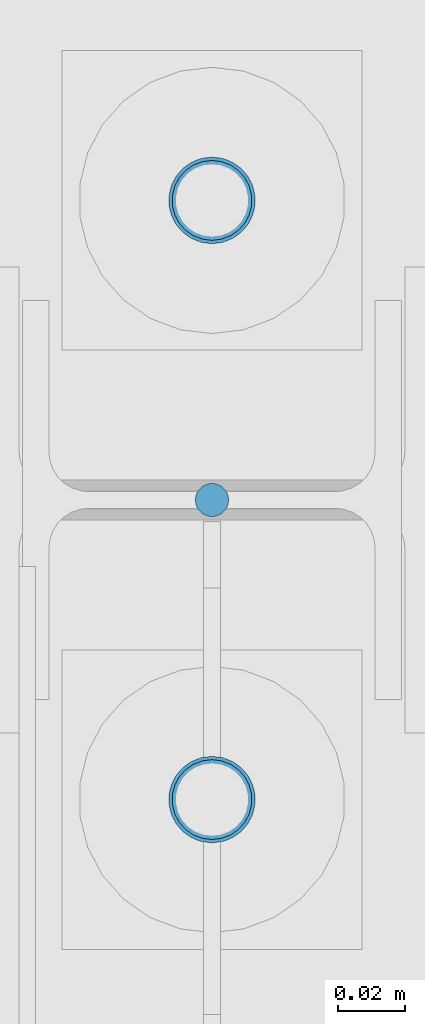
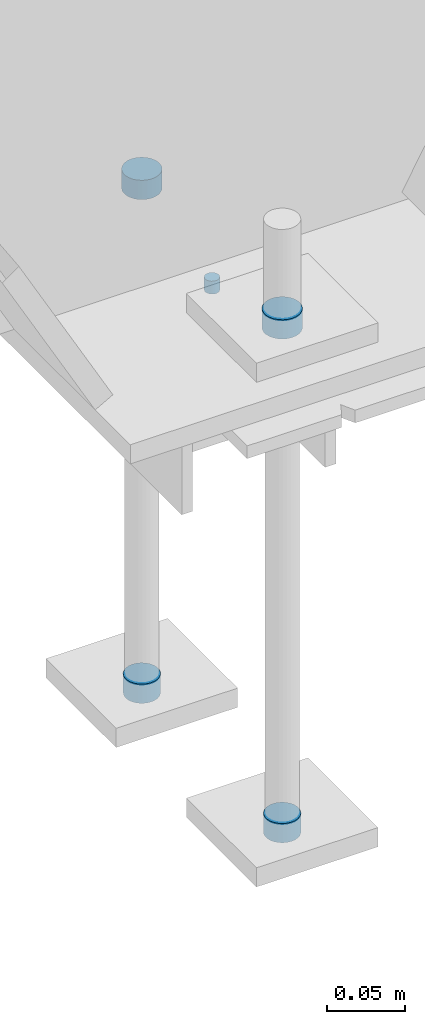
# One storey, part 100 of 123: 5 mechanical fasteners, 1 element without a shape of its own.
"""IFC2X3 building model written with IfcOpenShell, lengths in millimetres."""

import ifcopenshell
import ifcopenshell.guid

model = None  # the IFC model being written
_history = None  # IfcOwnerHistory: only IFC2X3 demands one
_inside = {}  # id of a spatial element -> (the spatial element, [elements in it])
_under = {}  # id of a project, library or spatial element -> (it, [spatial elements below it])
_declared = {}  # id of a project -> (the project, [libraries it declares])
_typed = {}  # id of a type object -> (the type object, [elements of that type])
_made_of = {}  # id of a material, layer set ... -> (it, [elements and type objects made of it])


def new_model(schema):
    """Start an empty IFC model of exactly this schema.

    Asked for "IFC4X3", IfcOpenShell would pick the latest addendum, in which some entities
    have other attributes; the version numbers below select the first issue.
    IFC2X3 requires an IfcOwnerHistory on every rooted entity: one is made here for all.
    """
    global model, _history
    if schema == "IFC4X3":
        model = ifcopenshell.file(schema_version=(4, 3, 0, 0))
    else:
        model = ifcopenshell.file(schema=schema)
    _inside.clear()
    _under.clear()
    _declared.clear()
    _typed.clear()
    _made_of.clear()
    _history = None
    if model.schema == "IFC2X3":
        org = make("IfcOrganization", Name="unknown")
        user = make(
            "IfcPersonAndOrganization",
            ThePerson=make("IfcPerson", FamilyName="unknown"),
            TheOrganization=org,
        )
        app = make(
            "IfcApplication",
            ApplicationDeveloper=org,
            Version="unknown",
            ApplicationFullName="unknown",
            ApplicationIdentifier="unknown",
        )
        _history = make(
            "IfcOwnerHistory",
            OwningUser=user,
            OwningApplication=app,
            ChangeAction="ADDED",
            CreationDate=0,
        )
    return model


def make(cls, **values):
    """One entity of the class cls with the attributes given. An attribute that is None is left unset."""
    return model.create_entity(
        cls, **{name: value for name, value in values.items() if value is not None}
    )


def rooted(cls, **values):
    """An entity with a GlobalId (a new one), such as an element, a storey or a relation."""
    return make(cls, GlobalId=ifcopenshell.guid.new(), OwnerHistory=_history, **values)


def si_unit(unit_type, name, prefix=None):
    """IfcSIUnit, for example si_unit("LENGTHUNIT", "METRE", prefix="MILLI")."""
    return make("IfcSIUnit", UnitType=unit_type, Prefix=prefix, Name=name)


def assignment(units):
    """IfcUnitAssignment: the units of a project."""
    return None if units is None else make("IfcUnitAssignment", Units=units)


def point(xyz):
    """IfcCartesianPoint."""
    return None if xyz is None else make("IfcCartesianPoint", Coordinates=xyz)


def direction(xyz):
    """IfcDirection."""
    return None if xyz is None else make("IfcDirection", DirectionRatios=xyz)


def frame(location, z_axis=None, x_axis=None):
    """IfcAxis2Placement3D, a coordinate frame: its origin and axes. An axis left out is left unset."""
    return make(
        "IfcAxis2Placement3D",
        Location=point(location),
        Axis=direction(z_axis),
        RefDirection=direction(x_axis),
    )


def frame_2d(location, x_axis=None):
    """IfcAxis2Placement2D, a coordinate frame in the plane: its origin and x axis."""
    return make(
        "IfcAxis2Placement2D", Location=point(location), RefDirection=direction(x_axis)
    )


def origin_with_axes():
    """The frame at (0, 0, 0) with the z axis (0, 0, 1) and the x axis (1, 0, 0) written out."""
    return frame((0.0, 0.0, 0.0), z_axis=(0.0, 0.0, 1.0), x_axis=(1.0, 0.0, 0.0))


def origin_2d_with_axis():
    """The frame at (0, 0) in the plane with the x axis (1, 0) written out."""
    return frame_2d((0.0, 0.0), x_axis=(1.0, 0.0))


def place(relative_to, where):
    """IfcLocalPlacement: puts the frame where relative to a parent placement (None: the world)."""
    return make(
        "IfcLocalPlacement", PlacementRelTo=relative_to, RelativePlacement=where
    )


def context(
    kind, dimensions, precision=None, world=None, true_north=None, identifier=None
):
    """IfcGeometricRepresentationContext, for example the 3D "Model" context."""
    return make(
        "IfcGeometricRepresentationContext",
        ContextIdentifier=identifier,
        ContextType=kind,
        CoordinateSpaceDimension=dimensions,
        Precision=precision,
        WorldCoordinateSystem=world,
        TrueNorth=true_north,
    )


def subcontext(parent, identifier, kind, view, scale=None):
    """IfcGeometricRepresentationSubContext, for example "Body" below "Model"."""
    return make(
        "IfcGeometricRepresentationSubContext",
        ContextIdentifier=identifier,
        ContextType=kind,
        ParentContext=parent,
        TargetScale=scale,
        TargetView=view,
    )


def project(units=None, contexts=None):
    """IfcProject with its units and contexts."""
    return rooted(
        "IfcProject",
        Name="project",
        RepresentationContexts=contexts,
        UnitsInContext=assignment(units),
    )


def spatial(cls, under=None, at=None, **own):
    """A site, building, storey or space (cls), placed at a placement, below another one or the project."""
    s = rooted(cls, ObjectPlacement=at, **own)
    if under is not None:
        _under.setdefault(under.id(), (under, []))[1].append(s)
    return s


def profile(cls, at=None, kind="AREA", **sizes):
    """A parametric profile (cls). Its sizes go by their IFC names, for example OverallWidth=200.0."""
    return make(cls, ProfileType=kind, Position=at, **sizes)


def circle(**sizes):
    """IfcCircleProfileDef."""
    return profile("IfcCircleProfileDef", **sizes)


def extrude(swept, where, along, depth):
    """IfcExtrudedAreaSolid: the profile swept, set in the frame where, extruded along a direction by depth."""
    return make(
        "IfcExtrudedAreaSolid",
        SweptArea=swept,
        Position=where,
        ExtrudedDirection=direction(along),
        Depth=depth,
    )


def shape(context_of_items, identifier, shape_type, items):
    """IfcShapeRepresentation: the items that make up one representation, for example the "Body"."""
    return make(
        "IfcShapeRepresentation",
        ContextOfItems=context_of_items,
        RepresentationIdentifier=identifier,
        RepresentationType=shape_type,
        Items=items,
    )


def source(mapping_origin, context_of_items, identifier, shape_type, items):
    """IfcRepresentationMap: a shape defined once, which mapped items show again and again."""
    return make(
        "IfcRepresentationMap",
        MappingOrigin=mapping_origin,
        MappedRepresentation=shape(context_of_items, identifier, shape_type, items),
    )


def transform(
    local_origin,
    x_axis=None,
    y_axis=None,
    z_axis=None,
    scale=None,
    scale2=None,
    scale3=None,
    uniform=True,
):
    """IfcCartesianTransformationOperator3D, or its non-uniform kind. x_axis, y_axis, z_axis: its Axis1, 2, 3."""
    if uniform:
        return make(
            "IfcCartesianTransformationOperator3D",
            Axis1=direction(x_axis),
            Axis2=direction(y_axis),
            LocalOrigin=point(local_origin),
            Scale=scale,
            Axis3=direction(z_axis),
        )
    return make(
        "IfcCartesianTransformationOperator3DnonUniform",
        Axis1=direction(x_axis),
        Axis2=direction(y_axis),
        LocalOrigin=point(local_origin),
        Scale=scale,
        Axis3=direction(z_axis),
        Scale2=scale2,
        Scale3=scale3,
    )


def mapped(mapping_source, mapping_target):
    """IfcMappedItem: shows the shape of a source again, moved by a transform."""
    return make(
        "IfcMappedItem", MappingSource=mapping_source, MappingTarget=mapping_target
    )


def material(Name=None, Category=None):
    """IfcMaterial."""
    return make("IfcMaterial", Name=Name, Category=Category)


def made_of(thing, what):
    """Note that an element or type object is made of a material, layer set ...; save() writes the relation."""
    if what is not None:
        _made_of.setdefault(what.id(), (what, []))[1].append(thing)
    return thing


def type_object(cls, material=None, **own):
    """A type object (cls), such as IfcWallType, which elements share."""
    return made_of(rooted(cls, **own), material)


def element(
    cls,
    number,
    at=None,
    inside=None,
    cuts=None,
    type_object=None,
    material=None,
    context=None,
    identifier="Body",
    shape_type=None,
    held_by="IfcProductDefinitionShape",
    body=None,
    shapes=None,
    **own,
):
    """One element of the class cls, such as IfcWall. Its Tag is "e" and its number.

    at: its placement. inside: the storey or other place that contains it. cuts: it is an
    opening in that element (IfcRelVoidsElement). A single representation is given by context,
    identifier, shape_type and body (its items); several are given by shapes. held_by: the class
    of the entity that holds the representations. save() writes the other relations.
    """
    e = rooted(cls, Tag="e%d" % number, ObjectPlacement=at, **own)
    if body is not None:
        shapes = [shape(context, identifier, shape_type, body)]
    if shapes is not None:
        e.Representation = make(held_by, Representations=shapes)
    if inside is not None:
        _inside.setdefault(inside.id(), (inside, []))[1].append(e)
    if cuts is not None:
        rooted(
            "IfcRelVoidsElement", RelatingBuildingElement=cuts, RelatedOpeningElement=e
        )
    if type_object is not None:
        _typed.setdefault(type_object.id(), (type_object, []))[1].append(e)
    return made_of(e, material)


def aggregate(whole, parts):
    """IfcRelAggregates: a whole, such as a stair, and the parts it consists of."""
    return rooted("IfcRelAggregates", RelatingObject=whole, RelatedObjects=parts)


def save(model, path):
    """Write the relations noted so far, then the file.

    IfcRelAggregates (storeys below a building ...), IfcRelContainedInSpatialStructure (elements
    in a storey), IfcRelDefinesByType, IfcRelAssociatesMaterial and IfcRelDeclares: one each for
    every whole, place, type object, material and project.
    """
    for whole, parts in _under.values():
        aggregate(whole, parts)
    for where, things in _inside.values():
        rooted(
            "IfcRelContainedInSpatialStructure",
            RelatedElements=things,
            RelatingStructure=where,
        )
    for kind, things in _typed.values():
        rooted("IfcRelDefinesByType", RelatedObjects=things, RelatingType=kind)
    for what, things in _made_of.values():
        rooted("IfcRelAssociatesMaterial", RelatedObjects=things, RelatingMaterial=what)
    for by, libraries in _declared.values():
        rooted("IfcRelDeclares", RelatingContext=by, RelatedDefinitions=libraries)
    model.write(path)


model = new_model("IFC2X3")

# Units and contexts
model_context = context("Model", 3, precision=1e-05, world=origin_with_axes())
body_context = subcontext(model_context, "Body", "Model", "MODEL_VIEW")
ifc_project = project(units=[si_unit("LENGTHUNIT", "METRE", prefix="MILLI"), si_unit("AREAUNIT", "SQUARE_METRE"), si_unit("VOLUMEUNIT", "CUBIC_METRE"), si_unit("MASSUNIT", "GRAM", prefix="KILO"), si_unit("TIMEUNIT", "SECOND"), si_unit("PLANEANGLEUNIT", "RADIAN"), si_unit("SOLIDANGLEUNIT", "STERADIAN"), si_unit("THERMODYNAMICTEMPERATUREUNIT", "DEGREE_CELSIUS"), si_unit("LUMINOUSINTENSITYUNIT", "LUMEN")], contexts=[model_context])

# Site, building, storey
site_placement = place(None, origin_with_axes())
site = spatial("IfcSite", under=ifc_project, at=site_placement, Name="Undefined", CompositionType="ELEMENT")
building_placement = place(site_placement, origin_with_axes())
building = spatial("IfcBuilding", under=site, at=building_placement, Name="Undefined", CompositionType="ELEMENT")
storey_placement = place(building_placement, origin_with_axes())
storey = spatial("IfcBuildingStorey", under=building, at=storey_placement, Name="Undefined", CompositionType="ELEMENT", Elevation=0.0)

# Assembly, mechanical fasteners
assembly_placement = place(storey_placement, origin_with_axes())
assembly = element("IfcElementAssembly", 1, at=assembly_placement, inside=storey, Name="Steel Assembly", AssemblyPlace="NOTDEFINED", PredefinedType="RIGID_FRAME")
ifc_material = material(Name="6.8")
discrete_accessory_type = type_object("IfcDiscreteAccessoryType", Name="Bolt assembly")
shared_shape_1 = source(origin_with_axes(), body_context, "Body", "SweptSolid", [
    extrude(circle(Radius=13.0, at=origin_2d_with_axis()), frame((0.0, -15.0, 0.0), z_axis=(0.0, 1.0, 0.0), x_axis=(1.0, 0.0, 0.0)), (0.0, 0.0, 1.0), 15.1),
])
mechanical_fastener_1_placement = place(assembly_placement, frame((12680.0, -90.0028495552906, -235.0), z_axis=(1.0, 0.0, 0.0), x_axis=(0.0, -1.0, 0.0)))
mechanical_fastener_1 = element("IfcMechanicalFastener", 2, at=mechanical_fastener_1_placement, type_object=discrete_accessory_type, material=ifc_material, Name="Bolt assembly", NominalDiameter=24.0, NominalLength=15.0, context=body_context, shape_type="MappedRepresentation", body=[
    mapped(shared_shape_1, transform((0.0, 0.0, 0.0))),
])
mechanical_fastener_2_placement = place(assembly_placement, frame((12680.0, 89.9971504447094, -235.0), z_axis=(1.0, 0.0, 0.0), x_axis=(0.0, -1.0, 0.0)))
mechanical_fastener_2 = element("IfcMechanicalFastener", 3, at=mechanical_fastener_2_placement, type_object=discrete_accessory_type, material=ifc_material, Name="Bolt assembly", NominalDiameter=24.0, NominalLength=15.0, context=body_context, shape_type="MappedRepresentation", body=[
    mapped(shared_shape_1, transform((0.0, 0.0, 0.0))),
])
shared_shape_2 = source(origin_with_axes(), body_context, "Body", "SweptSolid", [
    extrude(circle(Radius=12.0, at=origin_2d_with_axis()), frame((0.0, -15.0, 0.0), z_axis=(0.0, 1.0, 0.0), x_axis=(1.0, 0.0, 0.0)), (0.0, 0.0, 1.0), 15.1),
])
mechanical_fastener_3_placement = place(assembly_placement, frame((12680.0, -90.0028495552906, -630.0), z_axis=(1.0, 0.0, 0.0), x_axis=(0.0, -1.0, 0.0)))
mechanical_fastener_3 = element("IfcMechanicalFastener", 4, at=mechanical_fastener_3_placement, type_object=discrete_accessory_type, material=ifc_material, Name="Bolt assembly", NominalDiameter=22.0, NominalLength=15.0, context=body_context, shape_type="MappedRepresentation", body=[
    mapped(shared_shape_2, transform((0.0, 0.0, 0.0))),
])
mechanical_fastener_4_placement = place(assembly_placement, frame((12680.0, 89.9971504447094, -630.0), z_axis=(1.0, 0.0, 0.0), x_axis=(0.0, -1.0, 0.0)))
mechanical_fastener_4 = element("IfcMechanicalFastener", 5, at=mechanical_fastener_4_placement, type_object=discrete_accessory_type, material=ifc_material, Name="Bolt assembly", NominalDiameter=22.0, NominalLength=15.0, context=body_context, shape_type="MappedRepresentation", body=[
    mapped(shared_shape_2, transform((0.0, 0.0, 0.0))),
])
shared_shape_3 = source(origin_with_axes(), body_context, "Body", "SweptSolid", [
    extrude(circle(Radius=5.0, at=origin_2d_with_axis()), frame((0.0, 0.0, 0.0), z_axis=(0.0, 1.0, 0.0), x_axis=(1.0, 0.0, 0.0)), (0.0, 0.0, 1.0), 10.1),
])
mechanical_fastener_5_placement = place(assembly_placement, frame((12680.0, 7.34107743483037e-08, -250.0), z_axis=(0.0, 1.0, 0.0), x_axis=(1.0, 0.0, 0.0)))
mechanical_fastener_5 = element("IfcMechanicalFastener", 6, at=mechanical_fastener_5_placement, type_object=discrete_accessory_type, material=ifc_material, Name="Bolt assembly", NominalDiameter=8.0, NominalLength=10.0, context=body_context, shape_type="MappedRepresentation", body=[
    mapped(shared_shape_3, transform((0.0, 0.0, 0.0))),
])
aggregate(assembly, [mechanical_fastener_1, mechanical_fastener_2, mechanical_fastener_3, mechanical_fastener_4, mechanical_fastener_5])

save(model, "model.ifc")
